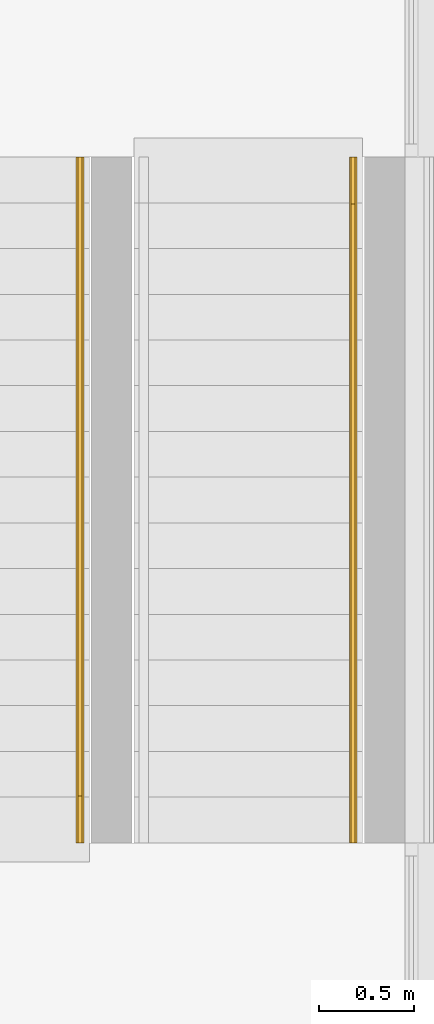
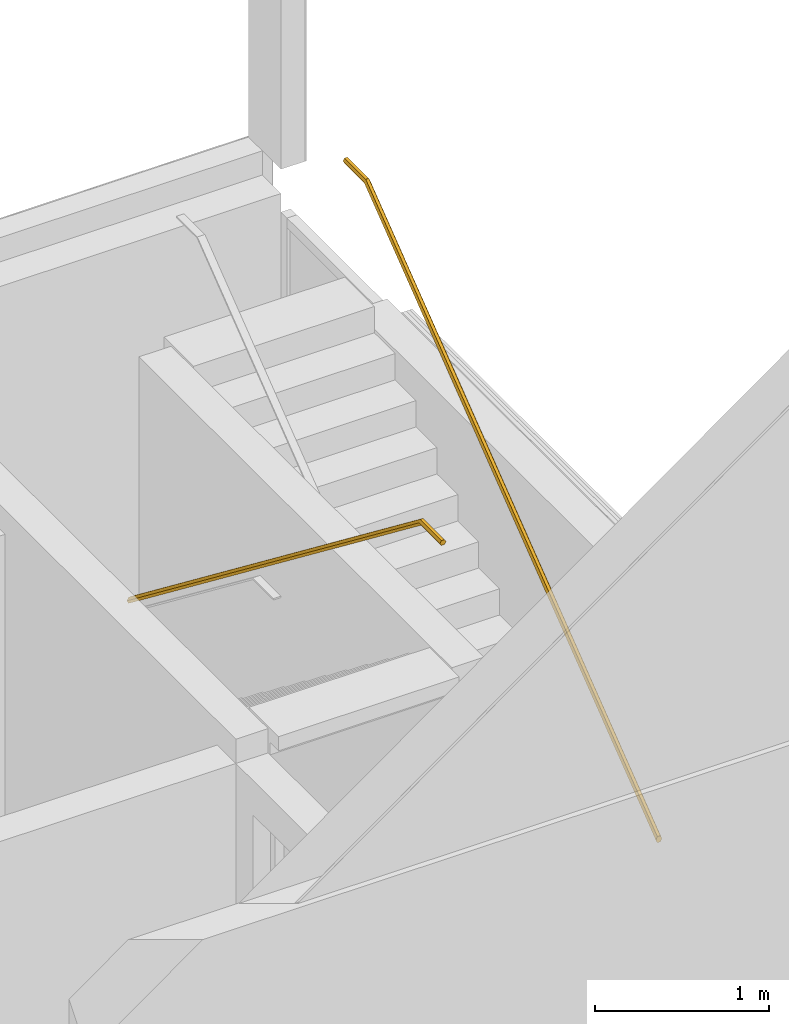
# One storey, part 14 of 22: 2 railings, 2 elements without a shape of their own.
"""IFC2X3 building model written with IfcOpenShell, lengths in millimetres."""

from ifc_helpers import new_model, entity, si_unit, converted_unit, derived_unit, money_unit, direction, frame, origin_with_axes, place, context, subcontext, project, spatial, faceted_brep, material, type_object, element, aggregate, save


model = new_model("IFC2X3")

# Units and contexts
model_context = context("Model", 3, precision=0.01, world=origin_with_axes(), true_north=direction((0.0, 1.0)))
body_context = subcontext(model_context, "Body", "Model", "MODEL_VIEW")
ifc_project = project(units=[si_unit("LENGTHUNIT", "METRE", prefix="MILLI"), si_unit("AREAUNIT", "SQUARE_METRE"), si_unit("VOLUMEUNIT", "CUBIC_METRE"), converted_unit("PLANEANGLEUNIT", "DEGREE", entity("IfcPlaneAngleMeasure", 0.0174532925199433), si_unit("PLANEANGLEUNIT", "RADIAN"), dimensions=[0, 0, 0, 0, 0, 0, 0]), money_unit("EUR"), converted_unit("TIMEUNIT", "Year", entity("IfcTimeMeasure", 31557600.0), si_unit("TIMEUNIT", "SECOND"), dimensions=[0, 0, 1, 0, 0, 0, 0]), si_unit("MASSUNIT", "GRAM", prefix="KILO"), si_unit("THERMODYNAMICTEMPERATUREUNIT", "DEGREE_CELSIUS"), si_unit("LUMINOUSINTENSITYUNIT", "LUMEN"), si_unit("ENERGYUNIT", "JOULE", prefix="MEGA"), derived_unit("THERMALCONDUCTANCEUNIT", [(si_unit("POWERUNIT", "WATT"), 1), (si_unit("LENGTHUNIT", "METRE"), -1), (si_unit("THERMODYNAMICTEMPERATUREUNIT", "KELVIN"), -1)]), derived_unit("SPECIFICHEATCAPACITYUNIT", [(si_unit("ENERGYUNIT", "JOULE"), 1), (si_unit("MASSUNIT", "GRAM", prefix="KILO"), -1), (si_unit("THERMODYNAMICTEMPERATUREUNIT", "KELVIN"), -1)]), derived_unit("MASSDENSITYUNIT", [(si_unit("MASSUNIT", "GRAM", prefix="KILO"), 1), (si_unit("VOLUMEUNIT", "CUBIC_METRE"), -1)])], contexts=[model_context])

# Site, building, storey
site_placement = place(None, origin_with_axes())
site = spatial("IfcSite", under=ifc_project, at=site_placement, Name="Site", CompositionType="ELEMENT")
building_placement = place(site_placement, origin_with_axes())
building = spatial("IfcBuilding", under=site, at=building_placement, Name="Naam gebouw", CompositionType="ELEMENT")
storey_placement = place(building_placement, frame((0.0, 0.0, 11150.0), z_axis=(0.0, 0.0, 1.0), x_axis=(1.0, 0.0, 0.0)))
storey = spatial("IfcBuildingStorey", under=building, at=storey_placement, Name="3e verdieping/dak N", CompositionType="ELEMENT", Elevation=11150.0)

# Stair, railing
stair_1_placement = place(storey_placement, frame((0.0, 0.0, -11150.0), z_axis=(0.0, 0.0, 1.0), x_axis=(1.0, 0.0, 0.0)))
stair_1 = element("IfcStair", 1, at=stair_1_placement, inside=storey, Name="Precast Stair:Stair", ObjectType="Precast Stair:24_trap - prefab", ShapeType="NOTDEFINED")
ifc_material = material(Name="baluster_staal")
railing_type = type_object("IfcRailingType", Name="Railing:44_3B_leuning - staal Ø40", PredefinedType="NOTDEFINED")
railing_1_placement = place(stair_1_placement, frame((34894.59527228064, 34145.91242623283, 12517.83614326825), z_axis=(0.0, 0.0, 1.0), x_axis=(0.0, 1.0, 0.0)))
railing_1 = element("IfcRailing", 2, at=railing_1_placement, type_object=railing_type, material=ifc_material, Name="Railing:44_3B_leuning - staal Ø40", PredefinedType="NOTDEFINED", context=body_context, shape_type="Brep", body=[
    faceted_brep([(3600.0, 1.59527223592, 26.83052339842), (3600.0, 4.095272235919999, 21.36693125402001), (3600.0, 6.595272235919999, 15.90333910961), (3600.0, 9.095272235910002, 10.43974696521), (3600.0, 11.59527223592, 4.976154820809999), (3600.0, 16.59527223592, 4.976154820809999), (3600.0, 21.59527223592, 4.976154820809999), (3600.0, 26.59527223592, 4.976154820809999), (3600.0, 31.59527223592, 4.976154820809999), (3600.0, 34.09527223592, 10.43974696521), (3600.0, 36.59527223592, 15.90333910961), (3600.0, 39.09527223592, 21.36693125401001), (3600.0, 41.59527223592, 26.83052339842), (3600.0, 39.63400118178, 31.11675744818), (3600.0, 37.67273012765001, 35.40299149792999), (3600.0, 34.63400118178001, 42.04394173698), (3600.0, 31.59527223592, 48.68489197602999), (3600.0, 26.59527223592, 48.68489197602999), (3600.0, 21.59527223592, 48.68489197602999), (3600.0, 16.59527223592, 48.68489197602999), (3600.0, 11.59527223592, 48.68489197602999), (3600.0, 9.095272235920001, 43.22129983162), (3600.0, 6.595272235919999, 37.75770768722), (3600.0, 3.55654329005, 31.11675744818), (240.0, 1.59527223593, 2612.16385673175), (238.84667540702, 3.5525869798, 2608.77368814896), (238.72210158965, 3.76400202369, 2608.40750655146), (237.69335081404, 5.509901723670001, 2605.38351956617), (237.4442031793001, 5.932731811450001, 2604.65115637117), (235.9004844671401, 8.552586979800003, 2600.11343411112), (235.77591064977, 8.764002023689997, 2599.74725251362), (234.10761812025, 11.59527223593, 2594.84334865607), (234.10761812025, 26.59527223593, 2594.84334865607), (234.10761812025, 31.59527223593, 2594.84334865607), (234.10761812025, 16.59527223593, 2594.84334865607), (234.10761812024, 21.59527223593, 2594.84334865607), (235.58071359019, 34.09527223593, 2599.17347567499), (237.05380906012, 36.59527223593, 2603.50360269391), (238.72210161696, 39.42654249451, 2608.40750663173), (238.84667540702, 39.63795749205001, 2608.77368814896), (240.0, 41.59527223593, 2612.16385673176), (241.47309546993, 39.09527223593, 2616.49398375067), (242.94619093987, 36.59527223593, 2620.8241107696), (244.4192864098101, 34.09527223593, 2625.15423778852), (245.89238187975, 31.59527223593, 2629.48436480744), (245.89238187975, 26.59527223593, 2629.48436480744), (245.89238187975, 21.59527223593, 2629.48436480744), (245.89238187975, 16.59527223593, 2629.48436480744), (245.89238187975, 11.59527223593, 2629.48436480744), (244.4192864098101, 9.095272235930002, 2625.15423778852), (242.94619093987, 6.59527223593, 2620.8241107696), (241.47309546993, 4.09527223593, 2616.49398375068), (0.0, 6.59527223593, 2603.50360269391), (0.0, 9.095272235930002, 2599.17347567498), (0.0, 11.59527223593, 2594.84334865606), (0.0, 1.59527223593, 2612.16385673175), (0.0, 4.09527223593, 2607.83372971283), (0.0, 16.59527223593, 2594.84334865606), (0.0, 21.59527223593, 2594.84334865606), (0.0, 26.59527223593, 2594.84334865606), (0.0, 31.59527223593, 2594.84334865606), (0.0, 34.09527223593, 2599.17347567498), (0.0, 36.59527223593, 2603.50360269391), (0.0, 39.09527223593, 2607.83372971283), (0.0, 41.59527223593, 2612.16385673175), (0.0, 39.48625981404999, 2615.81677340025), (0.0, 37.37724739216, 2619.46969006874), (0.0, 34.48625981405, 2624.47702743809), (0.0, 31.59527223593, 2629.48436480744), (0.0, 26.59527223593, 2629.48436480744), (0.0, 21.59527223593, 2629.48436480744), (0.0, 16.59527223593, 2629.48436480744), (0.0, 11.59527223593, 2629.48436480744), (0.0, 9.095272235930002, 2625.15423778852), (0.0, 6.59527223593, 2620.8241107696), (0.0, 3.704284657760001, 2615.81677340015)], [[[0, 1, 2, 3, 4, 5, 6, 7, 8, 9, 10, 11, 12, 13, 14, 15, 16, 17, 18, 19, 20, 21, 22, 23]], [[3, 2, 1, 0, 24, 25, 26, 27, 28, 29, 30, 31, 4]], [[32, 33, 8, 7, 6, 5, 4, 31, 34, 35]], [[11, 10, 9, 8, 33, 36, 37, 38, 39, 40, 12]], [[16, 15, 14, 13, 12, 40, 41, 42, 43, 44]], [[18, 17, 16, 44, 45, 46, 47, 48, 20, 19]], [[22, 21, 20, 48, 49, 50, 51, 24, 0, 23]], [[52, 53, 54, 31, 30, 29, 28, 27, 26, 25, 24, 55, 56]], [[35, 34, 31, 54, 57, 58, 59, 60, 33, 32]], [[61, 62, 63, 64, 40, 39, 38, 37, 36, 33, 60]], [[42, 41, 40, 64, 65, 66, 67, 68, 44, 43]], [[46, 45, 44, 68, 69, 70, 71, 72, 48, 47]], [[73, 74, 75, 55, 24, 51, 50, 49, 48, 72]], [[63, 62, 61, 60, 59, 58, 57, 54, 53, 52, 56, 55, 75, 74, 73, 72, 71, 70, 69, 68, 67, 66, 65, 64]]]),
])
aggregate(stair_1, [railing_1])

stair_2_placement = place(storey_placement, frame((0.0, 0.0, -11150.0), z_axis=(0.0, 0.0, 1.0), x_axis=(1.0, 0.0, 0.0)))
stair_2 = element("IfcStair", 3, at=stair_2_placement, inside=storey, Name="Precast Stair:Stair", ObjectType="Precast Stair:24_trap - prefab", ShapeType="NOTDEFINED")
railing_2_placement = place(stair_2_placement, frame((36328.59527225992, 34145.91242629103, 12517.83614326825), z_axis=(0.0, 0.0, 1.0), x_axis=(0.0, 1.0, 0.0)))
railing_2 = element("IfcRailing", 4, at=railing_2_placement, type_object=railing_type, material=ifc_material, Name="Railing:44_3B_leuning - staal Ø40", PredefinedType="NOTDEFINED", context=body_context, shape_type="Brep", body=[
    faceted_brep([(0.0, 41.59527223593, 26.83052339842), (0.0, 39.09527223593, 21.36693125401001), (0.0, 36.59527223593, 15.90333910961), (0.0, 34.09527223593, 10.43974696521), (0.0, 31.59527223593, 4.976154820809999), (0.0, 26.59527223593, 4.976154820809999), (0.0, 21.59527223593, 4.976154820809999), (0.0, 16.59527223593, 4.976154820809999), (0.0, 11.59527223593, 4.976154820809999), (0.0, 9.095272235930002, 10.43974696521), (0.0, 6.59527223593, 15.90333910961), (0.0, 4.09527223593, 21.36693125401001), (0.0, 1.59527223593, 26.83052339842), (0.0, 3.556543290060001, 31.11675744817), (0.0, 5.517814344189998, 35.40299149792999), (0.0, 8.556543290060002, 42.04394173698), (0.0, 11.59527223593, 48.68489197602), (0.0, 16.59527223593, 48.68489197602), (0.0, 21.59527223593, 48.68489197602), (0.0, 26.59527223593, 48.68489197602), (0.0, 31.59527223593, 48.68489197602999), (0.0, 34.09527223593, 43.22129983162), (0.0, 36.59527223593, 37.75770768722), (0.0, 39.63400118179, 31.11675744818), (3360.0, 41.59527223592, 2612.16385673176), (3361.15332459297, 39.63795749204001, 2608.77368814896), (3361.27789838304, 39.4265424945, 2608.40750663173), (3362.30664918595, 37.68064274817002, 2605.38351956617), (3362.55579676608, 37.25781275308, 2604.6511565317), (3364.09951553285, 34.63795749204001, 2600.11343411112), (3364.22408932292, 34.4265424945, 2599.747252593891), (3365.89238187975, 31.59527223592, 2594.84334865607), (3365.89238187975, 16.59527223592, 2594.84334865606), (3365.89238187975, 11.59527223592, 2594.84334865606), (3365.89238187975, 26.59527223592, 2594.84334865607), (3365.89238187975, 21.59527223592, 2594.84334865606), (3364.41928640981, 9.095272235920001, 2599.17347567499), (3362.94619093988, 6.595272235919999, 2603.50360269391), (3361.27789838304, 3.76400197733, 2608.40750663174), (3361.15332459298, 3.55258697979, 2608.77368814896), (3360.0, 1.59527223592, 2612.16385673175), (3358.52690453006, 4.095272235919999, 2616.49398375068), (3357.05380906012, 6.595272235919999, 2620.8241107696), (3355.58071359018, 9.095272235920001, 2625.15423778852), (3354.10761812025, 11.59527223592, 2629.48436480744), (3354.10761812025, 16.59527223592, 2629.48436480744), (3354.10761812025, 21.59527223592, 2629.48436480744), (3354.10761812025, 26.59527223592, 2629.48436480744), (3354.10761812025, 31.59527223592, 2629.48436480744), (3355.58071359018, 34.09527223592, 2625.15423778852), (3357.05380906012, 36.59527223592, 2620.8241107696), (3358.52690453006, 39.09527223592, 2616.49398375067), (3600.0, 36.59527223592, 2603.50360269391), (3600.0, 34.09527223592, 2599.17347567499), (3600.0, 31.59527223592, 2594.84334865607), (3600.0, 41.59527223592, 2612.16385673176), (3600.0, 39.09527223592, 2607.83372971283), (3600.0, 26.59527223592, 2594.84334865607), (3600.0, 21.59527223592, 2594.84334865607), (3600.0, 16.59527223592, 2594.84334865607), (3600.0, 11.59527223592, 2594.84334865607), (3600.0, 1.59527223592, 2612.16385673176), (3600.0, 9.095272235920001, 2599.17347567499), (3600.0, 6.595272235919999, 2603.50360269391), (3600.0, 4.095272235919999, 2607.83372971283), (3600.0, 3.704284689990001, 2615.81677345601), (3600.0, 5.81329714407, 2619.46969018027), (3600.0, 8.704284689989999, 2624.47702749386), (3600.0, 11.59527223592, 2629.48436480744), (3600.0, 26.59527223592, 2629.48436480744), (3600.0, 31.59527223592, 2629.48436480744), (3600.0, 16.59527223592, 2629.48436480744), (3600.0, 21.59527223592, 2629.48436480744), (3600.0, 39.48625981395, 2615.81677340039), (3600.0, 34.09527223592, 2625.15423778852), (3600.0, 36.59527223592, 2620.8241107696)], [[[0, 1, 2, 3, 4, 5, 6, 7, 8, 9, 10, 11, 12, 13, 14, 15, 16, 17, 18, 19, 20, 21, 22, 23]], [[3, 2, 1, 0, 24, 25, 26, 27, 28, 29, 30, 31, 4]], [[32, 33, 8, 7, 6, 5, 4, 31, 34, 35]], [[11, 10, 9, 8, 33, 36, 37, 38, 39, 40, 12]], [[16, 15, 14, 13, 12, 40, 41, 42, 43, 44]], [[18, 17, 16, 44, 45, 46, 47, 48, 20, 19]], [[22, 21, 20, 48, 49, 50, 51, 24, 0, 23]], [[52, 53, 54, 31, 30, 29, 28, 27, 26, 25, 24, 55, 56]], [[35, 34, 31, 54, 57, 58, 59, 60, 33, 32]], [[61, 40, 39, 38, 37, 36, 33, 60, 62, 63, 64]], [[42, 41, 40, 61, 65, 66, 67, 68, 44, 43]], [[69, 70, 48, 47, 46, 45, 44, 68, 71, 72]], [[73, 55, 24, 51, 50, 49, 48, 70, 74, 75]], [[64, 63, 62, 60, 59, 58, 57, 54, 53, 52, 56, 55, 73, 75, 74, 70, 69, 72, 71, 68, 67, 66, 65, 61]]]),
])
aggregate(stair_2, [railing_2])

save(model, "model.ifc")
